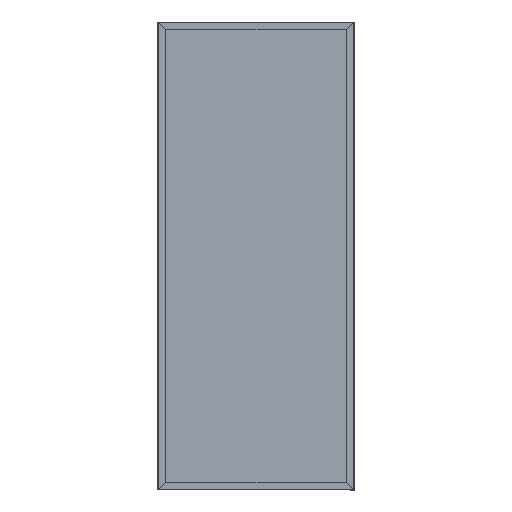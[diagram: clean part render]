
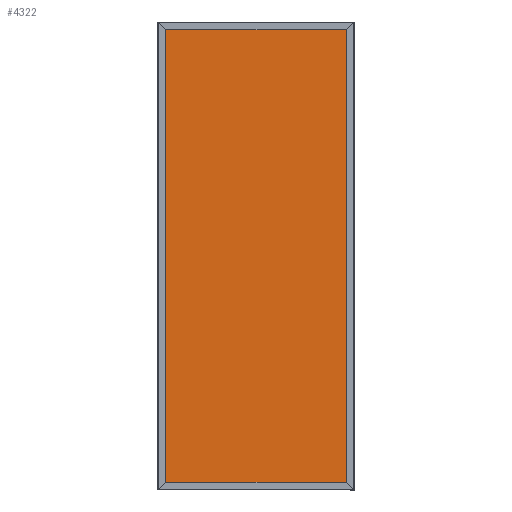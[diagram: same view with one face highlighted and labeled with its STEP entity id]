
A CAD part, top view. The second image highlights one B-rep face of the part: STEP entity #4322.
In plain terms, the highlighted planar face has unit normal (0, 0, 1).
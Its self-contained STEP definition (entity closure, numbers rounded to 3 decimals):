
#311 = DIRECTION ( 'NONE',  ( -1., 0., 0. ) ) ;
#416 = DIRECTION ( 'NONE',  ( -1., 0., 0. ) ) ;
#1556 = VERTEX_POINT ( 'NONE', #15587 ) ;
#1845 = CARTESIAN_POINT ( 'NONE',  ( 465.07, -1162.2, -13.25 ) ) ;
#2240 = VERTEX_POINT ( 'NONE', #12042 ) ;
#3026 = ORIENTED_EDGE ( 'NONE', *, *, #14429, .T. ) ;
#4322 = ADVANCED_FACE ( 'NONE', ( #14098 ), #12118, .F. ) ;
#5146 = EDGE_LOOP ( 'NONE', ( #8394, #14110, #3026, #13690 ) ) ;
#7285 = VECTOR ( 'NONE', #22281, 1000. ) ;
#8313 = DIRECTION ( 'NONE',  ( 0., 1., 0. ) ) ;
#8394 = ORIENTED_EDGE ( 'NONE', *, *, #29093, .F. ) ;
#9275 = LINE ( 'NONE', #18571, #16256 ) ;
#10004 = DIRECTION ( 'NONE',  ( 0., 0., -1. ) ) ;
#12042 = CARTESIAN_POINT ( 'NONE',  ( -465.07, 1162.2, -13.25 ) ) ;
#12118 = PLANE ( 'NONE',  #27480 ) ;
#12561 = LINE ( 'NONE', #28822, #7285 ) ;
#12680 = VECTOR ( 'NONE', #13027, 1000. ) ;
#13027 = DIRECTION ( 'NONE',  ( 0., 1., 0. ) ) ;
#13690 = ORIENTED_EDGE ( 'NONE', *, *, #22755, .T. ) ;
#14098 = FACE_OUTER_BOUND ( 'NONE', #5146, .T. ) ;
#14110 = ORIENTED_EDGE ( 'NONE', *, *, #17499, .F. ) ;
#14429 = EDGE_CURVE ( 'NONE', #21098, #1556, #22167, .T. ) ;
#15587 = CARTESIAN_POINT ( 'NONE',  ( 465.07, 1162.2, -13.25 ) ) ;
#16256 = VECTOR ( 'NONE', #311, 1000. ) ;
#17499 = EDGE_CURVE ( 'NONE', #21098, #21542, #12561, .T. ) ;
#17589 = CARTESIAN_POINT ( 'NONE',  ( -465.07, 0., -13.25 ) ) ;
#18571 = CARTESIAN_POINT ( 'NONE',  ( 0., 1162.2, -13.25 ) ) ;
#21098 = VERTEX_POINT ( 'NONE', #1845 ) ;
#21354 = CARTESIAN_POINT ( 'NONE',  ( -465.07, -1162.2, -13.25 ) ) ;
#21542 = VERTEX_POINT ( 'NONE', #21354 ) ;
#22167 = LINE ( 'NONE', #29145, #22477 ) ;
#22281 = DIRECTION ( 'NONE',  ( -1., 0., 0. ) ) ;
#22477 = VECTOR ( 'NONE', #8313, 1000. ) ;
#22755 = EDGE_CURVE ( 'NONE', #1556, #2240, #9275, .T. ) ;
#24431 = LINE ( 'NONE', #17589, #12680 ) ;
#26115 = CARTESIAN_POINT ( 'NONE',  ( 0., 0., -13.25 ) ) ;
#27480 = AXIS2_PLACEMENT_3D ( 'NONE', #26115, #10004, #416 ) ;
#28822 = CARTESIAN_POINT ( 'NONE',  ( 0., -1162.2, -13.25 ) ) ;
#29093 = EDGE_CURVE ( 'NONE', #21542, #2240, #24431, .T. ) ;
#29145 = CARTESIAN_POINT ( 'NONE',  ( 465.07, 0., -13.25 ) ) ;
